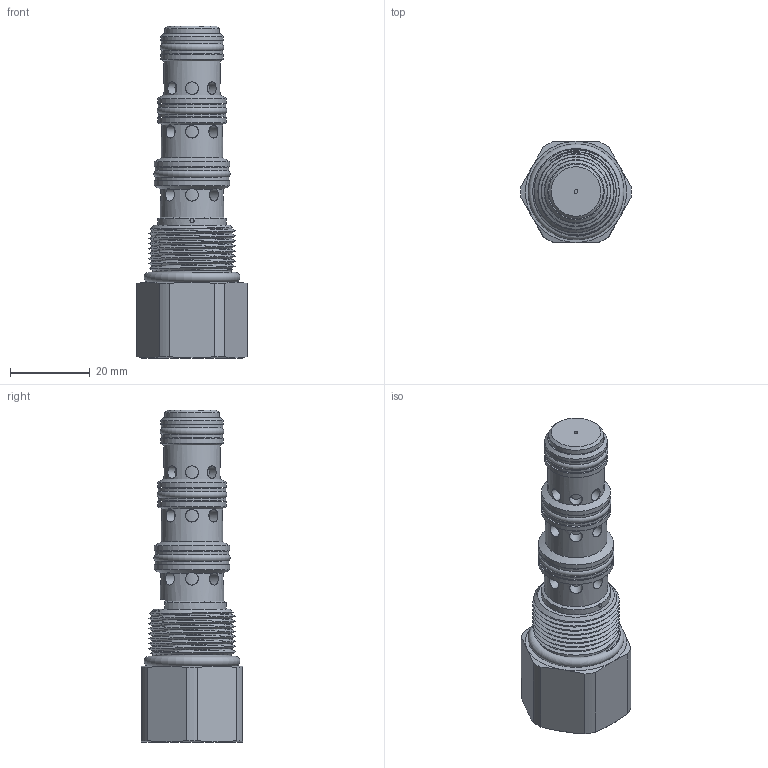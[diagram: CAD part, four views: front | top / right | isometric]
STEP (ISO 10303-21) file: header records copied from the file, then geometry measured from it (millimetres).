
FILE_DESCRIPTION(/* description */ (''),/* implementation_level */ '2;1');
FILE_NAME(/* name */ 'P:\EARS\EAR16xx\EAR1683 - catalog pages changes\Group1_Distribution 11_22_22\RTeck Agency_Tom\_SolidModels\HDGPDA00.stp',/* time_stamp */ '2022-12-15T08:28:51-06:00',/* author */ ('Michael'),/* organization */ (''),/* preprocessor_version */ 'ST-DEVELOPER v17.2',/* originating_system */ 'Autodesk Inventor 2019',/* authorisation */ '');
FILE_SCHEMA (('AUTOMOTIVE_DESIGN { 1 0 10303 214 3 1 1 }'));
Length unit declared in the file: inch
Products named in the file (1): HDGPDA00
Bounding box: 27.82 x 25.4 x 83.36 mm (x, y, z)
Volume: 24886.7 mm3; surface area: 9926.6 mm2
Topology: 1 solids, 2 shells, 178 faces, 437 edges, 304 vertices
Faces by surface type: cylinder 94, plane 47, cone 23, torus 9, bspline 5
Full cylindrical faces by diameter (mm): 0.914 x1, 1.016 x1, 3.175 x24, 7.252 x1, 7.556 x1, 9.52 x1, 9.53 x1, 9.588 x1, 12.992 x4, 13.716 x1, 14.275 x1, 14.592 x4, 15.392 x2, 15.469 x1, 15.723 x2, 15.875 x1, 16.167 x4, 16.967 x2, 17.323 x2, 18.567 x2, 18.898 x2, 19.621 x2
Entity records: 11151 total; most frequent: CARTESIAN_POINT 6800, ORIENTED_EDGE 874, DIRECTION 827, EDGE_CURVE 437, AXIS2_PLACEMENT_3D 366, VERTEX_POINT 304, EDGE_LOOP 228, CIRCLE 192
